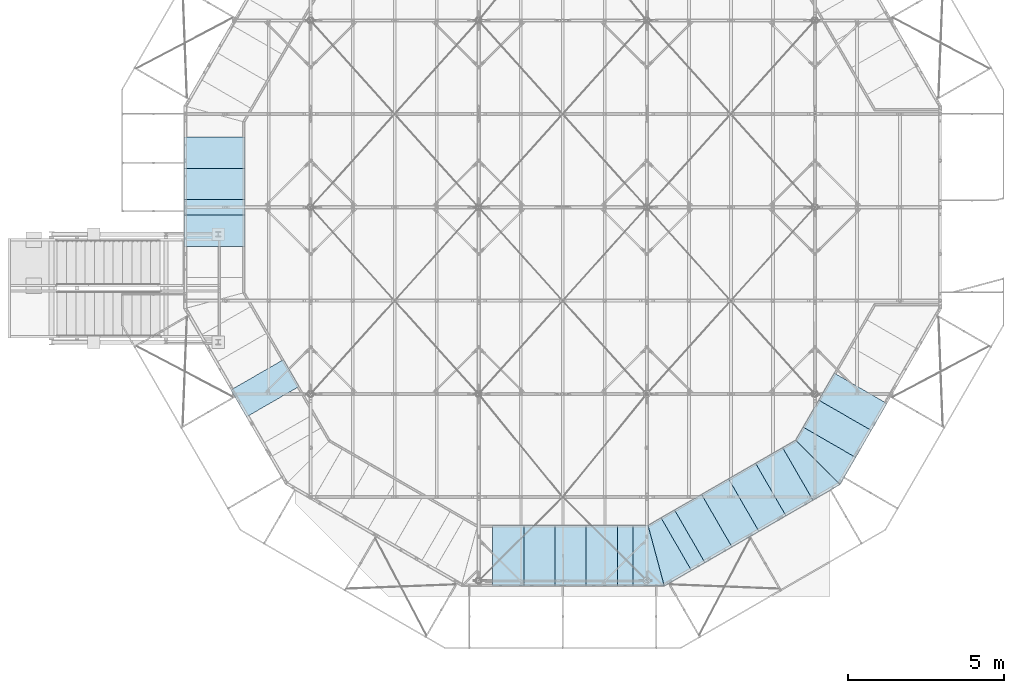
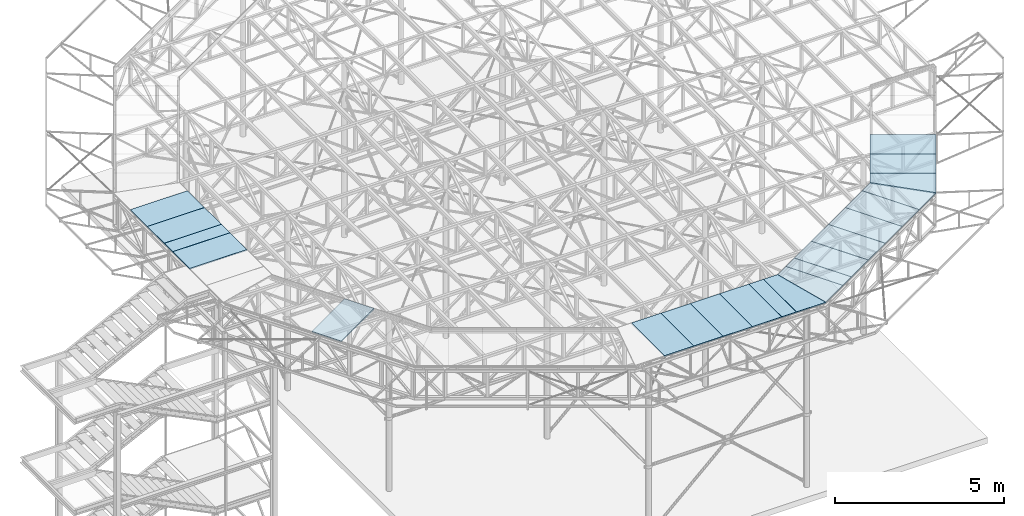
# One storey, part 31 of 132: 42 plates, 42 elements without a shape of their own.
"""IFC2X3 building model written with IfcOpenShell, lengths in millimetres."""

from ifc_helpers import new_model, si_unit, frame, origin_with_axes, place, context, subcontext, project, spatial, polyline, outline, extrude, material, type_object, element, aggregate, save


model = new_model("IFC2X3")

# Units and contexts
model_context = context("Model", 3, precision=1e-05, world=origin_with_axes())
body_context = subcontext(model_context, "Body", "Model", "MODEL_VIEW")
ifc_project = project(units=[si_unit("LENGTHUNIT", "METRE", prefix="MILLI"), si_unit("AREAUNIT", "SQUARE_METRE"), si_unit("VOLUMEUNIT", "CUBIC_METRE"), si_unit("MASSUNIT", "GRAM", prefix="KILO"), si_unit("TIMEUNIT", "SECOND"), si_unit("PLANEANGLEUNIT", "RADIAN"), si_unit("SOLIDANGLEUNIT", "STERADIAN"), si_unit("THERMODYNAMICTEMPERATUREUNIT", "DEGREE_CELSIUS"), si_unit("LUMINOUSINTENSITYUNIT", "LUMEN")], contexts=[model_context])

# Site, building, storey
site_placement = place(None, origin_with_axes())
site = spatial("IfcSite", under=ifc_project, at=site_placement, Name="Budowa", CompositionType="ELEMENT")
building_placement = place(site_placement, origin_with_axes())
building = spatial("IfcBuilding", under=site, at=building_placement, Name="Undefined", CompositionType="ELEMENT")
storey_placement = place(building_placement, origin_with_axes())
storey = spatial("IfcBuildingStorey", under=building, at=storey_placement, Name="Undefined", CompositionType="ELEMENT", Elevation=0.0)

# Assembly, plate
assembly_1_placement = place(storey_placement, origin_with_axes())
assembly_1 = element("IfcElementAssembly", 1, at=assembly_1_placement, inside=storey, Name="Steel Assembly", AssemblyPlace="NOTDEFINED", PredefinedType="RIGID_FRAME")
ifc_material = material(Name="STEEL/S235")
plate_type_1 = type_object("IfcPlateType", Name="BL2*1000", PredefinedType="NOTDEFINED")
plate_1_placement = place(assembly_1_placement, frame((-43.9331603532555, 12252.4129141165, 14031.0000000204), z_axis=(0.0, 0.0, -1.0), x_axis=(-2.66729999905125e-05, 0.999999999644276, 0.0)))
plate_1 = element("IfcPlate", 2, at=plate_1_placement, type_object=plate_type_1, material=ifc_material, Name="BLACHA RYFLOWANA", ObjectType="BL2*1000", context=body_context, shape_type="SweptSolid", body=[
    extrude(outline(polyline([(0.0, 0.0), (999.999999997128, 3.78349795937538e-10), (999.99999999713, 1950.9999999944), (-9.92986315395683e-09, 1950.9999999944), (0.0, 0.0)])), frame((0.0, 0.0, -0.999999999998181), z_axis=(0.0, 0.0, 1.0), x_axis=(1.0, 0.0, 0.0)), (0.0, 0.0, 1.0), 2.0),
])
aggregate(assembly_1, [plate_1])

assembly_2_placement = place(storey_placement, origin_with_axes())
assembly_2 = element("IfcElementAssembly", 3, at=assembly_2_placement, inside=storey, Name="Steel Assembly", AssemblyPlace="NOTDEFINED", PredefinedType="RIGID_FRAME")
plate_2_placement = place(assembly_2_placement, frame((-43.9331603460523, 13254.2897400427, 14031.0000000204), z_axis=(0.0, 0.0, -1.0), x_axis=(-2.66729999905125e-05, 0.999999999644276, 0.0)))
plate_2 = element("IfcPlate", 4, at=plate_2_placement, type_object=plate_type_1, material=ifc_material, Name="BLACHA RYFLOWANA", ObjectType="BL2*1000", context=body_context, shape_type="SweptSolid", body=[
    extrude(outline(polyline([(0.0, 0.0), (999.999999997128, 3.78349795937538e-10), (999.99999999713, 1950.9999999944), (-9.92986315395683e-09, 1950.9999999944), (0.0, 0.0)])), frame((0.0, 0.0, -0.999999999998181), z_axis=(0.0, 0.0, 1.0), x_axis=(1.0, 0.0, 0.0)), (0.0, 0.0, 1.0), 2.0),
])
aggregate(assembly_2, [plate_2])

assembly_3_placement = place(storey_placement, origin_with_axes())
assembly_3 = element("IfcElementAssembly", 5, at=assembly_3_placement, inside=storey, Name="Steel Assembly", AssemblyPlace="NOTDEFINED", PredefinedType="RIGID_FRAME")
plate_3_placement = place(assembly_3_placement, frame((-43.9331603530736, 11747.5881114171, 14031.0000000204), z_axis=(0.0, 0.0, 1.0), x_axis=(-2.66729999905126e-05, -0.999999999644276, 0.0)))
plate_3 = element("IfcPlate", 6, at=plate_3_placement, type_object=plate_type_1, material=ifc_material, Name="BLACHA RYFLOWANA", ObjectType="BL2*1000", context=body_context, shape_type="SweptSolid", body=[
    extrude(outline(polyline([(0.0, 0.0), (999.999999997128, 3.78349795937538e-10), (999.99999999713, 1950.9999999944), (-9.92986315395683e-09, 1950.9999999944), (0.0, 0.0)])), frame((0.0, 0.0, -0.999999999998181), z_axis=(0.0, 0.0, 1.0), x_axis=(1.0, 0.0, 0.0)), (0.0, 0.0, 1.0), 2.0),
])
aggregate(assembly_3, [plate_3])

assembly_4_placement = place(storey_placement, origin_with_axes())
assembly_4 = element("IfcElementAssembly", 7, at=assembly_4_placement, inside=storey, Name="Steel Assembly", AssemblyPlace="NOTDEFINED", PredefinedType="RIGID_FRAME")
plate_4_placement = place(assembly_4_placement, frame((1461.49309434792, 6131.67279763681, 14030.9999999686), z_axis=(0.0, 0.0, 1.0), x_axis=(0.500003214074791, -0.866023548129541, 0.0)))
plate_4 = element("IfcPlate", 8, at=plate_4_placement, type_object=plate_type_1, material=ifc_material, Name="BLACHA RYFLOWANA", ObjectType="BL2*1000", context=body_context, shape_type="SweptSolid", body=[
    extrude(outline(polyline([(0.0, 0.0), (999.999999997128, 3.78349795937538e-10), (999.99999999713, 1950.9999999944), (-9.92986315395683e-09, 1950.9999999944), (0.0, 0.0)])), frame((0.0, 0.0, -0.999999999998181), z_axis=(0.0, 0.0, 1.0), x_axis=(1.0, 0.0, 0.0)), (0.0, 0.0, 1.0), 2.0),
])
aggregate(assembly_4, [plate_4])

assembly_5_placement = place(storey_placement, origin_with_axes())
assembly_5 = element("IfcElementAssembly", 9, at=assembly_5_placement, inside=storey, Name="Steel Assembly", AssemblyPlace="NOTDEFINED", PredefinedType="RIGID_FRAME")
plate_5_placement = place(assembly_5_placement, frame((12877.0956570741, -168.999487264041, 14031.0), z_axis=(0.0, 0.0, 1.0), x_axis=(1.0, 0.0, 0.0)))
plate_5 = element("IfcPlate", 10, at=plate_5_placement, type_object=plate_type_1, material=ifc_material, Name="BLACHA RYFLOWANA", ObjectType="BL2*1000", context=body_context, shape_type="SweptSolid", body=[
    extrude(outline(polyline([(0.0, 0.0), (999.999999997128, 3.78349795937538e-10), (999.99999999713, 1950.9999999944), (-9.92986315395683e-09, 1950.9999999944), (0.0, 0.0)])), frame((0.0, 0.0, -0.999999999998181), z_axis=(0.0, 0.0, 1.0), x_axis=(1.0, 0.0, 0.0)), (0.0, 0.0, 1.0), 2.0),
])
aggregate(assembly_5, [plate_5])

assembly_6_placement = place(storey_placement, origin_with_axes())
assembly_6 = element("IfcElementAssembly", 11, at=assembly_6_placement, inside=storey, Name="Steel Assembly", AssemblyPlace="NOTDEFINED", PredefinedType="RIGID_FRAME")
plate_6_placement = place(assembly_6_placement, frame((11875.0956570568, -168.999487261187, 14031.0), z_axis=(0.0, 0.0, 1.0), x_axis=(1.0, 0.0, 0.0)))
plate_6 = element("IfcPlate", 12, at=plate_6_placement, type_object=plate_type_1, material=ifc_material, Name="BLACHA RYFLOWANA", ObjectType="BL2*1000", context=body_context, shape_type="SweptSolid", body=[
    extrude(outline(polyline([(0.0, 0.0), (999.999999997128, 3.78349795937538e-10), (999.99999999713, 1950.9999999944), (-9.92986315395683e-09, 1950.9999999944), (0.0, 0.0)])), frame((0.0, 0.0, -0.999999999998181), z_axis=(0.0, 0.0, 1.0), x_axis=(1.0, 0.0, 0.0)), (0.0, 0.0, 1.0), 2.0),
])
aggregate(assembly_6, [plate_6])

assembly_7_placement = place(storey_placement, origin_with_axes())
assembly_7 = element("IfcElementAssembly", 13, at=assembly_7_placement, inside=storey, Name="Steel Assembly", AssemblyPlace="NOTDEFINED", PredefinedType="RIGID_FRAME")
plate_7_placement = place(assembly_7_placement, frame((10873.0956570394, -168.999487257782, 14031.0), z_axis=(0.0, 0.0, 1.0), x_axis=(1.0, 0.0, 0.0)))
plate_7 = element("IfcPlate", 14, at=plate_7_placement, type_object=plate_type_1, material=ifc_material, Name="BLACHA RYFLOWANA", ObjectType="BL2*1000", context=body_context, shape_type="SweptSolid", body=[
    extrude(outline(polyline([(0.0, 0.0), (999.999999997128, 3.78349795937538e-10), (999.99999999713, 1950.9999999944), (-9.92986315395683e-09, 1950.9999999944), (0.0, 0.0)])), frame((0.0, 0.0, -0.999999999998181), z_axis=(0.0, 0.0, 1.0), x_axis=(1.0, 0.0, 0.0)), (0.0, 0.0, 1.0), 2.0),
])
aggregate(assembly_7, [plate_7])

assembly_8_placement = place(storey_placement, origin_with_axes())
assembly_8 = element("IfcElementAssembly", 15, at=assembly_8_placement, inside=storey, Name="Steel Assembly", AssemblyPlace="NOTDEFINED", PredefinedType="RIGID_FRAME")
plate_8_placement = place(assembly_8_placement, frame((9871.09565702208, -168.999487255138, 14031.0), z_axis=(0.0, 0.0, 1.0), x_axis=(1.0, 0.0, 0.0)))
plate_8 = element("IfcPlate", 16, at=plate_8_placement, type_object=plate_type_1, material=ifc_material, Name="BLACHA RYFLOWANA", ObjectType="BL2*1000", context=body_context, shape_type="SweptSolid", body=[
    extrude(outline(polyline([(0.0, 0.0), (999.999999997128, 3.78349795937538e-10), (999.99999999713, 1950.9999999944), (-9.92986315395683e-09, 1950.9999999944), (0.0, 0.0)])), frame((0.0, 0.0, -0.999999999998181), z_axis=(0.0, 0.0, 1.0), x_axis=(1.0, 0.0, 0.0)), (0.0, 0.0, 1.0), 2.0),
])
aggregate(assembly_8, [plate_8])

assembly_9_placement = place(storey_placement, origin_with_axes())
assembly_9 = element("IfcElementAssembly", 17, at=assembly_9_placement, inside=storey, Name="Steel Assembly", AssemblyPlace="NOTDEFINED", PredefinedType="RIGID_FRAME")
plate_9_placement = place(assembly_9_placement, frame((20161.1639622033, 2588.14081919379, 14031.0), z_axis=(0.0, 0.0, -1.0), x_axis=(-0.866045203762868, -0.499965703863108, 0.0)))
plate_9 = element("IfcPlate", 18, at=plate_9_placement, type_object=plate_type_1, material=ifc_material, Name="BLACHA RYFLOWANA", ObjectType="BL2*1000", context=body_context, shape_type="SweptSolid", body=[
    extrude(outline(polyline([(0.0, 0.0), (999.999999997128, 3.78349795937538e-10), (999.99999999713, 1950.9999999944), (-9.92986315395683e-09, 1950.9999999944), (0.0, 0.0)])), frame((0.0, 0.0, -0.999999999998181), z_axis=(0.0, 0.0, 1.0), x_axis=(1.0, 0.0, 0.0)), (0.0, 0.0, 1.0), 2.0),
])
aggregate(assembly_9, [plate_9])

assembly_10_placement = place(storey_placement, origin_with_axes())
assembly_10 = element("IfcElementAssembly", 19, at=assembly_10_placement, inside=storey, Name="Steel Assembly", AssemblyPlace="NOTDEFINED", PredefinedType="RIGID_FRAME")
plate_10_placement = place(assembly_10_placement, frame((19293.3866679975, 2087.17518391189, 14031.0), z_axis=(0.0, 0.0, -1.0), x_axis=(-0.866045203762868, -0.499965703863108, 0.0)))
plate_10 = element("IfcPlate", 20, at=plate_10_placement, type_object=plate_type_1, material=ifc_material, Name="BLACHA RYFLOWANA", ObjectType="BL2*1000", context=body_context, shape_type="SweptSolid", body=[
    extrude(outline(polyline([(0.0, 0.0), (999.999999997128, 3.78349795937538e-10), (999.99999999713, 1950.9999999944), (-9.92986315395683e-09, 1950.9999999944), (0.0, 0.0)])), frame((0.0, 0.0, -0.999999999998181), z_axis=(0.0, 0.0, 1.0), x_axis=(1.0, 0.0, 0.0)), (0.0, 0.0, 1.0), 2.0),
])
aggregate(assembly_10, [plate_10])

assembly_11_placement = place(storey_placement, origin_with_axes())
assembly_11 = element("IfcElementAssembly", 21, at=assembly_11_placement, inside=storey, Name="Steel Assembly", AssemblyPlace="NOTDEFINED", PredefinedType="RIGID_FRAME")
plate_11_placement = place(assembly_11_placement, frame((18425.6093737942, 1586.20954863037, 14030.9029864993), z_axis=(0.0, 0.0, -1.0), x_axis=(-0.866045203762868, -0.499965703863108, 0.0)))
plate_11 = element("IfcPlate", 22, at=plate_11_placement, type_object=plate_type_1, material=ifc_material, Name="BLACHA RYFLOWANA", ObjectType="BL2*1000", context=body_context, shape_type="SweptSolid", body=[
    extrude(outline(polyline([(0.0, 0.0), (999.999999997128, 3.78349795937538e-10), (999.99999999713, 1950.9999999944), (-9.92986315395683e-09, 1950.9999999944), (0.0, 0.0)])), frame((0.0, 0.0, -0.999999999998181), z_axis=(0.0, 0.0, 1.0), x_axis=(1.0, 0.0, 0.0)), (0.0, 0.0, 1.0), 2.0),
])
aggregate(assembly_11, [plate_11])

assembly_12_placement = place(storey_placement, origin_with_axes())
assembly_12 = element("IfcElementAssembly", 23, at=assembly_12_placement, inside=storey, Name="Steel Assembly", AssemblyPlace="NOTDEFINED", PredefinedType="RIGID_FRAME")
plate_12_placement = place(assembly_12_placement, frame((17557.8320796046, 1085.24391334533, 14030.9029864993), z_axis=(0.0, 0.0, -1.0), x_axis=(-0.866045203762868, -0.499965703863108, 0.0)))
plate_12 = element("IfcPlate", 24, at=plate_12_placement, type_object=plate_type_1, material=ifc_material, Name="BLACHA RYFLOWANA", ObjectType="BL2*1000", context=body_context, shape_type="SweptSolid", body=[
    extrude(outline(polyline([(0.0, 0.0), (999.999999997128, 3.78349795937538e-10), (999.99999999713, 1950.9999999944), (-9.92986315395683e-09, 1950.9999999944), (0.0, 0.0)])), frame((0.0, 0.0, -0.999999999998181), z_axis=(0.0, 0.0, 1.0), x_axis=(1.0, 0.0, 0.0)), (0.0, 0.0, 1.0), 2.0),
])
aggregate(assembly_12, [plate_12])

assembly_13_placement = place(storey_placement, origin_with_axes())
assembly_13 = element("IfcElementAssembly", 25, at=assembly_13_placement, inside=storey, Name="Steel Assembly", AssemblyPlace="NOTDEFINED", PredefinedType="RIGID_FRAME")
plate_13_placement = place(assembly_13_placement, frame((22537.5052920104, 5696.92897643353, 14031.0), z_axis=(0.0, 0.0, -1.0), x_axis=(-0.500003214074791, -0.866023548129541, 0.0)))
plate_13 = element("IfcPlate", 26, at=plate_13_placement, type_object=plate_type_1, material=ifc_material, Name="BLACHA RYFLOWANA", ObjectType="BL2*1000", context=body_context, shape_type="SweptSolid", body=[
    extrude(outline(polyline([(0.0, 0.0), (999.999999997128, 3.78349795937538e-10), (999.99999999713, 1950.9999999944), (-9.92986315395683e-09, 1950.9999999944), (0.0, 0.0)])), frame((0.0, 0.0, -0.999999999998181), z_axis=(0.0, 0.0, 1.0), x_axis=(1.0, 0.0, 0.0)), (0.0, 0.0, 1.0), 2.0),
])
aggregate(assembly_13, [plate_13])

assembly_14_placement = place(storey_placement, origin_with_axes())
assembly_14 = element("IfcElementAssembly", 27, at=assembly_14_placement, inside=storey, Name="Steel Assembly", AssemblyPlace="NOTDEFINED", PredefinedType="RIGID_FRAME")
plate_14_placement = place(assembly_14_placement, frame((22036.5020714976, 4829.17338117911, 14031.0), z_axis=(0.0, 0.0, -1.0), x_axis=(-0.500003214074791, -0.866023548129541, 0.0)))
plate_14 = element("IfcPlate", 28, at=plate_14_placement, type_object=plate_type_1, material=ifc_material, Name="BLACHA RYFLOWANA", ObjectType="BL2*1000", context=body_context, shape_type="SweptSolid", body=[
    extrude(outline(polyline([(0.0, 0.0), (999.999999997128, 3.78349795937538e-10), (999.99999999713, 1950.9999999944), (-9.92986315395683e-09, 1950.9999999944), (0.0, 0.0)])), frame((0.0, 0.0, -0.999999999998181), z_axis=(0.0, 0.0, 1.0), x_axis=(1.0, 0.0, 0.0)), (0.0, 0.0, 1.0), 2.0),
])
aggregate(assembly_14, [plate_14])

assembly_15_placement = place(storey_placement, origin_with_axes())
assembly_15 = element("IfcElementAssembly", 29, at=assembly_15_placement, inside=storey, Name="Steel Assembly", AssemblyPlace="NOTDEFINED", PredefinedType="RIGID_FRAME")
plate_type_2 = type_object("IfcPlateType", Name="BL2*1002", PredefinedType="NOTDEFINED")
plate_15_placement = place(assembly_15_placement, frame((15280.581717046, 2023.24741339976, 14031.0), z_axis=(0.0, 0.0, 1.0), x_axis=(-0.866045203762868, -0.499965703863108, 0.0)))
plate_15 = element("IfcPlate", 30, at=plate_15_placement, type_object=plate_type_2, material=ifc_material, Name="BLACHA RYFLOWANA", ObjectType="BL2*1002", context=body_context, shape_type="SweptSolid", body=[
    extrude(outline(polyline([(0.0, 0.0), (481.607696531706, 5.82076609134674e-10), (1002.48809814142, 1950.90051268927), (-3.37786332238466e-08, 1950.90051268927), (0.0, 0.0)])), frame((0.0, 0.0, -0.999999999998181), z_axis=(0.0, 0.0, 1.0), x_axis=(1.0, 0.0, 0.0)), (0.0, 0.0, 1.0), 2.0),
])
aggregate(assembly_15, [plate_15])

assembly_16_placement = place(storey_placement, origin_with_axes())
assembly_16 = element("IfcElementAssembly", 31, at=assembly_16_placement, inside=storey, Name="Steel Assembly", AssemblyPlace="NOTDEFINED", PredefinedType="RIGID_FRAME")
plate_16_placement = place(assembly_16_placement, frame((14380.9043428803, 1782.00051272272, 14031.0), z_axis=(0.0, 0.0, -1.0), x_axis=(1.0, 0.0, 0.0)))
plate_16 = element("IfcPlate", 32, at=plate_16_placement, type_object=plate_type_2, material=ifc_material, Name="BLACHA RYFLOWANA", ObjectType="BL2*1002", context=body_context, shape_type="SweptSolid", body=[
    extrude(outline(polyline([(0.0, 0.0), (481.607696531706, 5.82076609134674e-10), (1002.48809814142, 1950.90051268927), (-3.37786332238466e-08, 1950.90051268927), (0.0, 0.0)])), frame((0.0, 0.0, -0.999999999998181), z_axis=(0.0, 0.0, 1.0), x_axis=(1.0, 0.0, 0.0)), (0.0, 0.0, 1.0), 2.0),
])
aggregate(assembly_16, [plate_16])

assembly_17_placement = place(storey_placement, origin_with_axes())
assembly_17 = element("IfcElementAssembly", 33, at=assembly_17_placement, inside=storey, Name="Steel Assembly", AssemblyPlace="NOTDEFINED", PredefinedType="RIGID_FRAME")
plate_17_placement = place(assembly_17_placement, frame((19188.0119897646, 4278.99701871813, 14031.0), z_axis=(0.0, 0.0, -1.0), x_axis=(0.86604520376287, 0.499965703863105, 0.0)))
plate_17 = element("IfcPlate", 34, at=plate_17_placement, type_object=plate_type_2, material=ifc_material, Name="BLACHA RYFLOWANA", ObjectType="BL2*1002", context=body_context, shape_type="SweptSolid", body=[
    extrude(outline(polyline([(0.0, 0.0), (481.607696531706, 5.82076609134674e-10), (1002.48809814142, 1950.90051268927), (-3.37786332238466e-08, 1950.90051268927), (0.0, 0.0)])), frame((0.0, 0.0, -0.999999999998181), z_axis=(0.0, 0.0, 1.0), x_axis=(1.0, 0.0, 0.0)), (0.0, 0.0, 1.0), 2.0),
])
aggregate(assembly_17, [plate_17])

assembly_18_placement = place(storey_placement, origin_with_axes())
assembly_18 = element("IfcElementAssembly", 35, at=assembly_18_placement, inside=storey, Name="Steel Assembly", AssemblyPlace="NOTDEFINED", PredefinedType="RIGID_FRAME")
plate_18_placement = place(assembly_18_placement, frame((19846.7387029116, 4937.44168041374, 14031.0), z_axis=(0.0, 0.0, 1.0), x_axis=(-0.500336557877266, -0.865831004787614, 0.0)))
plate_18 = element("IfcPlate", 36, at=plate_18_placement, type_object=plate_type_2, material=ifc_material, Name="BLACHA RYFLOWANA", ObjectType="BL2*1002", context=body_context, shape_type="SweptSolid", body=[
    extrude(outline(polyline([(0.0, 0.0), (481.607696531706, 5.82076609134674e-10), (1002.48809814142, 1950.90051268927), (-3.37786332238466e-08, 1950.90051268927), (0.0, 0.0)])), frame((0.0, 0.0, -0.999999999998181), z_axis=(0.0, 0.0, 1.0), x_axis=(1.0, 0.0, 0.0)), (0.0, 0.0, 1.0), 2.0),
])
aggregate(assembly_18, [plate_18])

assembly_19_placement = place(storey_placement, origin_with_axes())
assembly_19 = element("IfcElementAssembly", 37, at=assembly_19_placement, inside=storey, Name="Steel Assembly", AssemblyPlace="NOTDEFINED", PredefinedType="RIGID_FRAME")
plate_type_3 = type_object("IfcPlateType", Name="BL2*500", PredefinedType="NOTDEFINED")
plate_19_placement = place(assembly_19_placement, frame((-43.9598866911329, 12249.9999999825, 14031.0000000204), z_axis=(0.0, 0.0, 1.0), x_axis=(-2.66729999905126e-05, -0.999999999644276, 0.0)))
plate_19 = element("IfcPlate", 38, at=plate_19_placement, type_object=plate_type_3, material=ifc_material, Name="BLACHA RYFLOWANA", ObjectType="BL2*500", context=body_context, shape_type="SweptSolid", body=[
    extrude(outline(polyline([(0.0, 0.0), (499.999999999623, 8.51287040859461e-10), (499.999999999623, 1950.99999999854), (-9.92986315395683e-09, 1950.9999999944), (0.0, 0.0)])), frame((0.0, 0.0, -0.999999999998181), z_axis=(0.0, 0.0, 1.0), x_axis=(1.0, 0.0, 0.0)), (0.0, 0.0, 1.0), 2.0),
])
aggregate(assembly_19, [plate_19])

assembly_20_placement = place(storey_placement, origin_with_axes())
assembly_20 = element("IfcElementAssembly", 39, at=assembly_20_placement, inside=storey, Name="Steel Assembly", AssemblyPlace="NOTDEFINED", PredefinedType="RIGID_FRAME")
plate_20_placement = place(assembly_20_placement, frame((13879.0956570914, -168.999487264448, 14031.0), z_axis=(0.0, 0.0, 1.0), x_axis=(1.0, 0.0, 0.0)))
plate_20 = element("IfcPlate", 40, at=plate_20_placement, type_object=plate_type_3, material=ifc_material, Name="BLACHA RYFLOWANA", ObjectType="BL2*500", context=body_context, shape_type="SweptSolid", body=[
    extrude(outline(polyline([(0.0, 0.0), (499.999999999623, 8.51287040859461e-10), (499.999999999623, 1950.99999999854), (-9.92986315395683e-09, 1950.9999999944), (0.0, 0.0)])), frame((0.0, 0.0, -0.999999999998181), z_axis=(0.0, 0.0, 1.0), x_axis=(1.0, 0.0, 0.0)), (0.0, 0.0, 1.0), 2.0),
])
aggregate(assembly_20, [plate_20])

assembly_21_placement = place(storey_placement, origin_with_axes())
assembly_21 = element("IfcElementAssembly", 41, at=assembly_21_placement, inside=storey, Name="Steel Assembly", AssemblyPlace="NOTDEFINED", PredefinedType="RIGID_FRAME")
plate_21_placement = place(assembly_21_placement, frame((16690.0547854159, 584.278278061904, 14030.9029864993), z_axis=(0.0, 0.0, -1.0), x_axis=(-0.866045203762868, -0.499965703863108, 0.0)))
plate_21 = element("IfcPlate", 42, at=plate_21_placement, type_object=plate_type_3, material=ifc_material, Name="BLACHA RYFLOWANA", ObjectType="BL2*500", context=body_context, shape_type="SweptSolid", body=[
    extrude(outline(polyline([(0.0, 0.0), (499.999999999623, 8.51287040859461e-10), (499.999999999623, 1950.99999999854), (-9.92986315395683e-09, 1950.9999999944), (0.0, 0.0)])), frame((0.0, 0.0, -0.999999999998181), z_axis=(0.0, 0.0, 1.0), x_axis=(1.0, 0.0, 0.0)), (0.0, 0.0, 1.0), 2.0),
])
aggregate(assembly_21, [plate_21])

assembly_22_placement = place(storey_placement, origin_with_axes())
assembly_22 = element("IfcElementAssembly", 43, at=assembly_22_placement, inside=storey, Name="Steel Assembly", AssemblyPlace="NOTDEFINED", PredefinedType="RIGID_FRAME")
plate_type_4 = type_object("IfcPlateType", Name="BL40*1000", PredefinedType="NOTDEFINED")
plate_22_placement = place(assembly_22_placement, frame((22537.5052920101, 5696.92897643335, 14010.0), z_axis=(0.0, 0.0, -1.0), x_axis=(-0.500003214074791, -0.866023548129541, 0.0)))
plate_22 = element("IfcPlate", 44, at=plate_22_placement, type_object=plate_type_4, material=ifc_material, Name="KRATA", ObjectType="BL40*1000", context=body_context, shape_type="SweptSolid", body=[
    extrude(outline(polyline([(0.0, 0.0), (999.999999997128, 3.78349795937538e-10), (999.99999999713, 1950.9999999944), (-9.92986315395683e-09, 1950.9999999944), (0.0, 0.0)])), frame((0.0, 0.0, -20.0), z_axis=(0.0, 0.0, 1.0), x_axis=(1.0, 0.0, 0.0)), (0.0, 0.0, 1.0), 40.0),
])
aggregate(assembly_22, [plate_22])

assembly_23_placement = place(storey_placement, origin_with_axes())
assembly_23 = element("IfcElementAssembly", 45, at=assembly_23_placement, inside=storey, Name="Steel Assembly", AssemblyPlace="NOTDEFINED", PredefinedType="RIGID_FRAME")
plate_23_placement = place(assembly_23_placement, frame((22036.5020714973, 4829.17338117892, 14010.0), z_axis=(0.0, 0.0, -1.0), x_axis=(-0.500003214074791, -0.866023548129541, 0.0)))
plate_23 = element("IfcPlate", 46, at=plate_23_placement, type_object=plate_type_4, material=ifc_material, Name="KRATA", ObjectType="BL40*1000", context=body_context, shape_type="SweptSolid", body=[
    extrude(outline(polyline([(0.0, 0.0), (999.999999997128, 3.78349795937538e-10), (999.99999999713, 1950.9999999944), (-9.92986315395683e-09, 1950.9999999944), (0.0, 0.0)])), frame((0.0, 0.0, -20.0), z_axis=(0.0, 0.0, 1.0), x_axis=(1.0, 0.0, 0.0)), (0.0, 0.0, 1.0), 40.0),
])
aggregate(assembly_23, [plate_23])

assembly_24_placement = place(storey_placement, origin_with_axes())
assembly_24 = element("IfcElementAssembly", 47, at=assembly_24_placement, inside=storey, Name="Steel Assembly", AssemblyPlace="NOTDEFINED", PredefinedType="RIGID_FRAME")
plate_24_placement = place(assembly_24_placement, frame((20161.163962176, 2588.14081920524, 14010.0), z_axis=(0.0, 0.0, -1.0), x_axis=(-0.866045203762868, -0.499965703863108, 0.0)))
plate_24 = element("IfcPlate", 48, at=plate_24_placement, type_object=plate_type_4, material=ifc_material, Name="KRATA", ObjectType="BL40*1000", context=body_context, shape_type="SweptSolid", body=[
    extrude(outline(polyline([(0.0, 0.0), (999.999999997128, 3.78349795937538e-10), (999.99999999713, 1950.9999999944), (-9.92986315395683e-09, 1950.9999999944), (0.0, 0.0)])), frame((0.0, 0.0, -20.0), z_axis=(0.0, 0.0, 1.0), x_axis=(1.0, 0.0, 0.0)), (0.0, 0.0, 1.0), 40.0),
])
aggregate(assembly_24, [plate_24])

assembly_25_placement = place(storey_placement, origin_with_axes())
assembly_25 = element("IfcElementAssembly", 49, at=assembly_25_placement, inside=storey, Name="Steel Assembly", AssemblyPlace="NOTDEFINED", PredefinedType="RIGID_FRAME")
plate_25_placement = place(assembly_25_placement, frame((19293.3866679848, 2087.17518391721, 14010.0), z_axis=(0.0, 0.0, -1.0), x_axis=(-0.866045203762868, -0.499965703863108, 0.0)))
plate_25 = element("IfcPlate", 50, at=plate_25_placement, type_object=plate_type_4, material=ifc_material, Name="KRATA", ObjectType="BL40*1000", context=body_context, shape_type="SweptSolid", body=[
    extrude(outline(polyline([(0.0, 0.0), (999.999999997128, 3.78349795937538e-10), (999.99999999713, 1950.9999999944), (-9.92986315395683e-09, 1950.9999999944), (0.0, 0.0)])), frame((0.0, 0.0, -20.0), z_axis=(0.0, 0.0, 1.0), x_axis=(1.0, 0.0, 0.0)), (0.0, 0.0, 1.0), 40.0),
])
aggregate(assembly_25, [plate_25])

assembly_26_placement = place(storey_placement, origin_with_axes())
assembly_26 = element("IfcElementAssembly", 51, at=assembly_26_placement, inside=storey, Name="Steel Assembly", AssemblyPlace="NOTDEFINED", PredefinedType="RIGID_FRAME")
plate_26_placement = place(assembly_26_placement, frame((18425.6093737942, 1586.20954863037, 14010.0), z_axis=(0.0, 0.0, -1.0), x_axis=(-0.866045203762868, -0.499965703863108, 0.0)))
plate_26 = element("IfcPlate", 52, at=plate_26_placement, type_object=plate_type_4, material=ifc_material, Name="KRATA", ObjectType="BL40*1000", context=body_context, shape_type="SweptSolid", body=[
    extrude(outline(polyline([(0.0, 0.0), (999.999999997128, 3.78349795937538e-10), (999.99999999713, 1950.9999999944), (-9.92986315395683e-09, 1950.9999999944), (0.0, 0.0)])), frame((0.0, 0.0, -20.0), z_axis=(0.0, 0.0, 1.0), x_axis=(1.0, 0.0, 0.0)), (0.0, 0.0, 1.0), 40.0),
])
aggregate(assembly_26, [plate_26])

assembly_27_placement = place(storey_placement, origin_with_axes())
assembly_27 = element("IfcElementAssembly", 53, at=assembly_27_placement, inside=storey, Name="Steel Assembly", AssemblyPlace="NOTDEFINED", PredefinedType="RIGID_FRAME")
plate_27_placement = place(assembly_27_placement, frame((17557.8320796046, 1085.24391334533, 14010.0), z_axis=(0.0, 0.0, -1.0), x_axis=(-0.866045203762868, -0.499965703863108, 0.0)))
plate_27 = element("IfcPlate", 54, at=plate_27_placement, type_object=plate_type_4, material=ifc_material, Name="KRATA", ObjectType="BL40*1000", context=body_context, shape_type="SweptSolid", body=[
    extrude(outline(polyline([(0.0, 0.0), (999.999999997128, 3.78349795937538e-10), (999.99999999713, 1950.9999999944), (-9.92986315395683e-09, 1950.9999999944), (0.0, 0.0)])), frame((0.0, 0.0, -20.0), z_axis=(0.0, 0.0, 1.0), x_axis=(1.0, 0.0, 0.0)), (0.0, 0.0, 1.0), 40.0),
])
aggregate(assembly_27, [plate_27])

assembly_28_placement = place(storey_placement, origin_with_axes())
assembly_28 = element("IfcElementAssembly", 55, at=assembly_28_placement, inside=storey, Name="Steel Assembly", AssemblyPlace="NOTDEFINED", PredefinedType="RIGID_FRAME")
plate_28_placement = place(assembly_28_placement, frame((-43.9331602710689, 12252.4129140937, 14010.0), z_axis=(0.0, 0.0, -1.0), x_axis=(-2.66729999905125e-05, 0.999999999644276, 0.0)))
plate_28 = element("IfcPlate", 56, at=plate_28_placement, type_object=plate_type_4, material=ifc_material, Name="KRATA", ObjectType="BL40*1000", context=body_context, shape_type="SweptSolid", body=[
    extrude(outline(polyline([(0.0, 0.0), (999.999999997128, 3.78349795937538e-10), (999.99999999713, 1950.9999999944), (-9.92986315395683e-09, 1950.9999999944), (0.0, 0.0)])), frame((0.0, 0.0, -20.0), z_axis=(0.0, 0.0, 1.0), x_axis=(1.0, 0.0, 0.0)), (0.0, 0.0, 1.0), 40.0),
])
aggregate(assembly_28, [plate_28])

assembly_29_placement = place(storey_placement, origin_with_axes())
assembly_29 = element("IfcElementAssembly", 57, at=assembly_29_placement, inside=storey, Name="Steel Assembly", AssemblyPlace="NOTDEFINED", PredefinedType="RIGID_FRAME")
plate_29_placement = place(assembly_29_placement, frame((-43.9331602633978, 13254.2897400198, 14010.0), z_axis=(0.0, 0.0, -1.0), x_axis=(-2.66729999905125e-05, 0.999999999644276, 0.0)))
plate_29 = element("IfcPlate", 58, at=plate_29_placement, type_object=plate_type_4, material=ifc_material, Name="KRATA", ObjectType="BL40*1000", context=body_context, shape_type="SweptSolid", body=[
    extrude(outline(polyline([(0.0, 0.0), (999.999999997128, 3.78349795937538e-10), (999.99999999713, 1950.9999999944), (-9.92986315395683e-09, 1950.9999999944), (0.0, 0.0)])), frame((0.0, 0.0, -20.0), z_axis=(0.0, 0.0, 1.0), x_axis=(1.0, 0.0, 0.0)), (0.0, 0.0, 1.0), 40.0),
])
aggregate(assembly_29, [plate_29])

assembly_30_placement = place(storey_placement, origin_with_axes())
assembly_30 = element("IfcElementAssembly", 59, at=assembly_30_placement, inside=storey, Name="Steel Assembly", AssemblyPlace="NOTDEFINED", PredefinedType="RIGID_FRAME")
plate_30_placement = place(assembly_30_placement, frame((-43.9331602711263, 11747.5881113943, 14010.0), z_axis=(0.0, 0.0, 1.0), x_axis=(-2.66729999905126e-05, -0.999999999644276, 0.0)))
plate_30 = element("IfcPlate", 60, at=plate_30_placement, type_object=plate_type_4, material=ifc_material, Name="KRATA", ObjectType="BL40*1000", context=body_context, shape_type="SweptSolid", body=[
    extrude(outline(polyline([(0.0, 0.0), (999.999999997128, 3.78349795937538e-10), (999.99999999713, 1950.9999999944), (-9.92986315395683e-09, 1950.9999999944), (0.0, 0.0)])), frame((0.0, 0.0, -20.0), z_axis=(0.0, 0.0, 1.0), x_axis=(1.0, 0.0, 0.0)), (0.0, 0.0, 1.0), 40.0),
])
aggregate(assembly_30, [plate_30])

assembly_31_placement = place(storey_placement, origin_with_axes())
assembly_31 = element("IfcElementAssembly", 61, at=assembly_31_placement, inside=storey, Name="Steel Assembly", AssemblyPlace="NOTDEFINED", PredefinedType="RIGID_FRAME")
plate_31_placement = place(assembly_31_placement, frame((1461.49309440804, 6131.67279761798, 14010.0), z_axis=(0.0, 0.0, 1.0), x_axis=(0.500003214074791, -0.866023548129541, 0.0)))
plate_31 = element("IfcPlate", 62, at=plate_31_placement, type_object=plate_type_4, material=ifc_material, Name="KRATA", ObjectType="BL40*1000", context=body_context, shape_type="SweptSolid", body=[
    extrude(outline(polyline([(0.0, 0.0), (999.999999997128, 3.78349795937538e-10), (999.99999999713, 1950.9999999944), (-9.92986315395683e-09, 1950.9999999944), (0.0, 0.0)])), frame((0.0, 0.0, -20.0), z_axis=(0.0, 0.0, 1.0), x_axis=(1.0, 0.0, 0.0)), (0.0, 0.0, 1.0), 40.0),
])
aggregate(assembly_31, [plate_31])

assembly_32_placement = place(storey_placement, origin_with_axes())
assembly_32 = element("IfcElementAssembly", 63, at=assembly_32_placement, inside=storey, Name="Steel Assembly", AssemblyPlace="NOTDEFINED", PredefinedType="RIGID_FRAME")
plate_32_placement = place(assembly_32_placement, frame((12877.0956570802, -168.999487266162, 14010.0), z_axis=(0.0, 0.0, 1.0), x_axis=(1.0, 0.0, 0.0)))
plate_32 = element("IfcPlate", 64, at=plate_32_placement, type_object=plate_type_4, material=ifc_material, Name="KRATA", ObjectType="BL40*1000", context=body_context, shape_type="SweptSolid", body=[
    extrude(outline(polyline([(0.0, 0.0), (999.999999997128, 3.78349795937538e-10), (999.99999999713, 1950.9999999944), (-9.92986315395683e-09, 1950.9999999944), (0.0, 0.0)])), frame((0.0, 0.0, -20.0), z_axis=(0.0, 0.0, 1.0), x_axis=(1.0, 0.0, 0.0)), (0.0, 0.0, 1.0), 40.0),
])
aggregate(assembly_32, [plate_32])

assembly_33_placement = place(storey_placement, origin_with_axes())
assembly_33 = element("IfcElementAssembly", 65, at=assembly_33_placement, inside=storey, Name="Steel Assembly", AssemblyPlace="NOTDEFINED", PredefinedType="RIGID_FRAME")
plate_33_placement = place(assembly_33_placement, frame((11875.0956570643, -168.999487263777, 14010.0), z_axis=(0.0, 0.0, 1.0), x_axis=(1.0, 0.0, 0.0)))
plate_33 = element("IfcPlate", 66, at=plate_33_placement, type_object=plate_type_4, material=ifc_material, Name="KRATA", ObjectType="BL40*1000", context=body_context, shape_type="SweptSolid", body=[
    extrude(outline(polyline([(0.0, 0.0), (999.999999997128, 3.78349795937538e-10), (999.99999999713, 1950.9999999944), (-9.92986315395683e-09, 1950.9999999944), (0.0, 0.0)])), frame((0.0, 0.0, -20.0), z_axis=(0.0, 0.0, 1.0), x_axis=(1.0, 0.0, 0.0)), (0.0, 0.0, 1.0), 40.0),
])
aggregate(assembly_33, [plate_33])

assembly_34_placement = place(storey_placement, origin_with_axes())
assembly_34 = element("IfcElementAssembly", 67, at=assembly_34_placement, inside=storey, Name="Steel Assembly", AssemblyPlace="NOTDEFINED", PredefinedType="RIGID_FRAME")
plate_34_placement = place(assembly_34_placement, frame((10873.0956570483, -168.999487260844, 14010.0), z_axis=(0.0, 0.0, 1.0), x_axis=(1.0, 0.0, 0.0)))
plate_34 = element("IfcPlate", 68, at=plate_34_placement, type_object=plate_type_4, material=ifc_material, Name="KRATA", ObjectType="BL40*1000", context=body_context, shape_type="SweptSolid", body=[
    extrude(outline(polyline([(0.0, 0.0), (999.999999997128, 3.78349795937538e-10), (999.99999999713, 1950.9999999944), (-9.92986315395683e-09, 1950.9999999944), (0.0, 0.0)])), frame((0.0, 0.0, -20.0), z_axis=(0.0, 0.0, 1.0), x_axis=(1.0, 0.0, 0.0)), (0.0, 0.0, 1.0), 40.0),
])
aggregate(assembly_34, [plate_34])

assembly_35_placement = place(storey_placement, origin_with_axes())
assembly_35 = element("IfcElementAssembly", 69, at=assembly_35_placement, inside=storey, Name="Steel Assembly", AssemblyPlace="NOTDEFINED", PredefinedType="RIGID_FRAME")
plate_35_placement = place(assembly_35_placement, frame((9871.09565703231, -168.99948725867, 14010.0), z_axis=(0.0, 0.0, 1.0), x_axis=(1.0, 0.0, 0.0)))
plate_35 = element("IfcPlate", 70, at=plate_35_placement, type_object=plate_type_4, material=ifc_material, Name="KRATA", ObjectType="BL40*1000", context=body_context, shape_type="SweptSolid", body=[
    extrude(outline(polyline([(0.0, 0.0), (999.999999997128, 3.78349795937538e-10), (999.99999999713, 1950.9999999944), (-9.92986315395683e-09, 1950.9999999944), (0.0, 0.0)])), frame((0.0, 0.0, -20.0), z_axis=(0.0, 0.0, 1.0), x_axis=(1.0, 0.0, 0.0)), (0.0, 0.0, 1.0), 40.0),
])
aggregate(assembly_35, [plate_35])

assembly_36_placement = place(storey_placement, origin_with_axes())
assembly_36 = element("IfcElementAssembly", 71, at=assembly_36_placement, inside=storey, Name="Steel Assembly", AssemblyPlace="NOTDEFINED", PredefinedType="RIGID_FRAME")
plate_type_5 = type_object("IfcPlateType", Name="BL40*1002", PredefinedType="NOTDEFINED")
plate_36_placement = place(assembly_36_placement, frame((15280.5817170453, 2023.24741340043, 14010.0), z_axis=(0.0, 0.0, 1.0), x_axis=(-0.866045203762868, -0.499965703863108, 0.0)))
plate_36 = element("IfcPlate", 72, at=plate_36_placement, type_object=plate_type_5, material=ifc_material, Name="KRATA", ObjectType="BL40*1002", context=body_context, shape_type="SweptSolid", body=[
    extrude(outline(polyline([(0.0, 0.0), (481.607696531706, 5.82076609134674e-10), (1002.48809814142, 1950.90051268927), (-3.37786332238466e-08, 1950.90051268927), (0.0, 0.0)])), frame((0.0, 0.0, -20.0), z_axis=(0.0, 0.0, 1.0), x_axis=(1.0, 0.0, 0.0)), (0.0, 0.0, 1.0), 40.0),
])
aggregate(assembly_36, [plate_36])

assembly_37_placement = place(storey_placement, origin_with_axes())
assembly_37 = element("IfcElementAssembly", 73, at=assembly_37_placement, inside=storey, Name="Steel Assembly", AssemblyPlace="NOTDEFINED", PredefinedType="RIGID_FRAME")
plate_37_placement = place(assembly_37_placement, frame((19846.7387029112, 4937.44168041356, 14010.0), z_axis=(0.0, 0.0, 1.0), x_axis=(-0.500336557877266, -0.865831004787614, 0.0)))
plate_37 = element("IfcPlate", 74, at=plate_37_placement, type_object=plate_type_5, material=ifc_material, Name="KRATA", ObjectType="BL40*1002", context=body_context, shape_type="SweptSolid", body=[
    extrude(outline(polyline([(0.0, 0.0), (481.607696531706, 5.82076609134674e-10), (1002.48809814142, 1950.90051268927), (-3.37786332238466e-08, 1950.90051268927), (0.0, 0.0)])), frame((0.0, 0.0, -20.0), z_axis=(0.0, 0.0, 1.0), x_axis=(1.0, 0.0, 0.0)), (0.0, 0.0, 1.0), 40.0),
])
aggregate(assembly_37, [plate_37])

assembly_38_placement = place(storey_placement, origin_with_axes())
assembly_38 = element("IfcElementAssembly", 75, at=assembly_38_placement, inside=storey, Name="Steel Assembly", AssemblyPlace="NOTDEFINED", PredefinedType="RIGID_FRAME")
plate_38_placement = place(assembly_38_placement, frame((19188.011989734, 4278.99701873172, 14010.0), z_axis=(0.0, 0.0, -1.0), x_axis=(0.86604520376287, 0.499965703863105, 0.0)))
plate_38 = element("IfcPlate", 76, at=plate_38_placement, type_object=plate_type_5, material=ifc_material, Name="KRATA", ObjectType="BL40*1002", context=body_context, shape_type="SweptSolid", body=[
    extrude(outline(polyline([(0.0, 0.0), (481.607696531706, 5.82076609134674e-10), (1002.48809814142, 1950.90051268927), (-3.37786332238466e-08, 1950.90051268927), (0.0, 0.0)])), frame((0.0, 0.0, -20.0), z_axis=(0.0, 0.0, 1.0), x_axis=(1.0, 0.0, 0.0)), (0.0, 0.0, 1.0), 40.0),
])
aggregate(assembly_38, [plate_38])

assembly_39_placement = place(storey_placement, origin_with_axes())
assembly_39 = element("IfcElementAssembly", 77, at=assembly_39_placement, inside=storey, Name="Steel Assembly", AssemblyPlace="NOTDEFINED", PredefinedType="RIGID_FRAME")
plate_39_placement = place(assembly_39_placement, frame((14380.9043428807, 1782.00051272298, 14010.0), z_axis=(0.0, 0.0, -1.0), x_axis=(1.0, 0.0, 0.0)))
plate_39 = element("IfcPlate", 78, at=plate_39_placement, type_object=plate_type_5, material=ifc_material, Name="KRATA", ObjectType="BL40*1002", context=body_context, shape_type="SweptSolid", body=[
    extrude(outline(polyline([(0.0, 0.0), (481.607696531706, 5.82076609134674e-10), (1002.48809814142, 1950.90051268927), (-3.37786332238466e-08, 1950.90051268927), (0.0, 0.0)])), frame((0.0, 0.0, -20.0), z_axis=(0.0, 0.0, 1.0), x_axis=(1.0, 0.0, 0.0)), (0.0, 0.0, 1.0), 40.0),
])
aggregate(assembly_39, [plate_39])

assembly_40_placement = place(storey_placement, origin_with_axes())
assembly_40 = element("IfcElementAssembly", 79, at=assembly_40_placement, inside=storey, Name="Steel Assembly", AssemblyPlace="NOTDEFINED", PredefinedType="RIGID_FRAME")
plate_type_6 = type_object("IfcPlateType", Name="BL40*500", PredefinedType="NOTDEFINED")
plate_40_placement = place(assembly_40_placement, frame((16690.0547854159, 584.278278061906, 14010.0), z_axis=(0.0, 0.0, -1.0), x_axis=(-0.866045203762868, -0.499965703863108, 0.0)))
plate_40 = element("IfcPlate", 80, at=plate_40_placement, type_object=plate_type_6, material=ifc_material, Name="KRATA", ObjectType="BL40*500", context=body_context, shape_type="SweptSolid", body=[
    extrude(outline(polyline([(0.0, 0.0), (499.999999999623, 8.51287040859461e-10), (499.999999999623, 1950.99999999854), (-9.92986315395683e-09, 1950.9999999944), (0.0, 0.0)])), frame((0.0, 0.0, -20.0), z_axis=(0.0, 0.0, 1.0), x_axis=(1.0, 0.0, 0.0)), (0.0, 0.0, 1.0), 40.0),
])
aggregate(assembly_40, [plate_40])

assembly_41_placement = place(storey_placement, origin_with_axes())
assembly_41 = element("IfcElementAssembly", 81, at=assembly_41_placement, inside=storey, Name="Steel Assembly", AssemblyPlace="NOTDEFINED", PredefinedType="RIGID_FRAME")
plate_41_placement = place(assembly_41_placement, frame((-43.9598866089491, 12249.9999999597, 14010.0), z_axis=(0.0, 0.0, 1.0), x_axis=(-2.66729999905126e-05, -0.999999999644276, 0.0)))
plate_41 = element("IfcPlate", 82, at=plate_41_placement, type_object=plate_type_6, material=ifc_material, Name="KRATA", ObjectType="BL40*500", context=body_context, shape_type="SweptSolid", body=[
    extrude(outline(polyline([(0.0, 0.0), (499.999999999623, 8.51287040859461e-10), (499.999999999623, 1950.99999999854), (-9.92986315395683e-09, 1950.9999999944), (0.0, 0.0)])), frame((0.0, 0.0, -20.0), z_axis=(0.0, 0.0, 1.0), x_axis=(1.0, 0.0, 0.0)), (0.0, 0.0, 1.0), 40.0),
])
aggregate(assembly_41, [plate_41])

assembly_42_placement = place(storey_placement, origin_with_axes())
assembly_42 = element("IfcElementAssembly", 83, at=assembly_42_placement, inside=storey, Name="Steel Assembly", AssemblyPlace="NOTDEFINED", PredefinedType="RIGID_FRAME")
plate_42_placement = place(assembly_42_placement, frame((13879.0956570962, -168.999487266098, 14010.0), z_axis=(0.0, 0.0, 1.0), x_axis=(1.0, 0.0, 0.0)))
plate_42 = element("IfcPlate", 84, at=plate_42_placement, type_object=plate_type_6, material=ifc_material, Name="KRATA", ObjectType="BL40*500", context=body_context, shape_type="SweptSolid", body=[
    extrude(outline(polyline([(0.0, 0.0), (499.999999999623, 8.51287040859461e-10), (499.999999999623, 1950.99999999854), (-9.92986315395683e-09, 1950.9999999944), (0.0, 0.0)])), frame((0.0, 0.0, -20.0), z_axis=(0.0, 0.0, 1.0), x_axis=(1.0, 0.0, 0.0)), (0.0, 0.0, 1.0), 40.0),
])
aggregate(assembly_42, [plate_42])

save(model, "model.ifc")
